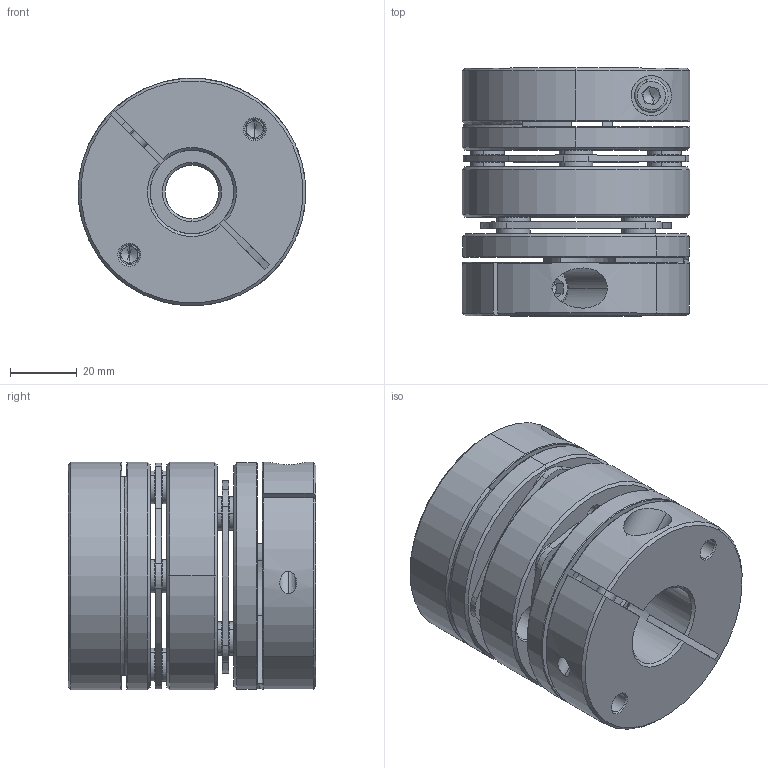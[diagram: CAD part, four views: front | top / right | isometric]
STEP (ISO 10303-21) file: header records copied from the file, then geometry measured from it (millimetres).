
FILE_DESCRIPTION (( 'STEP AP203' ), '1' );
FILE_NAME ('LD2-D68-16-25.STEP', '2021-10-26T08:17:59', ( '' ), ( '' ), 'SwSTEP 2.0', 'SolidWorks 2018', '' );
FILE_SCHEMA (( 'CONFIG_CONTROL_DESIGN' ));
Length unit declared in the file: millimetre
Products named in the file (2): LD2-D68-16-25; 錨璃102^LD2-D68
Assembly tree (1 placements, depth 2):
  LD2-D68-16-25
    錨璃102^LD2-D68
Bounding box: 68 x 74 x 68 mm (x, y, z)
Volume: 188296.5 mm3; surface area: 64539.7 mm2
Topology: 1 solids, 27 shells, 734 faces, 1712 edges, 1042 vertices
Faces by surface type: cylinder 256, cone 226, plane 222, torus 30
Entity records: 21554 total; most frequent: DIRECTION 4004, CARTESIAN_POINT 3937, ORIENTED_EDGE 3376, EDGE_CURVE 1688, AXIS2_PLACEMENT_3D 1625, VERTEX_POINT 1042, CIRCLE 887, EDGE_LOOP 870
